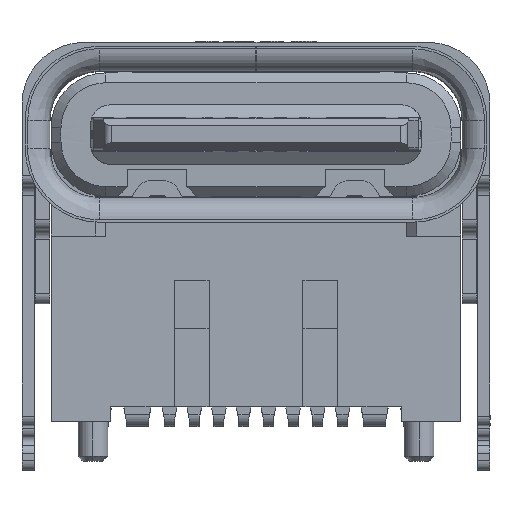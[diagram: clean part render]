
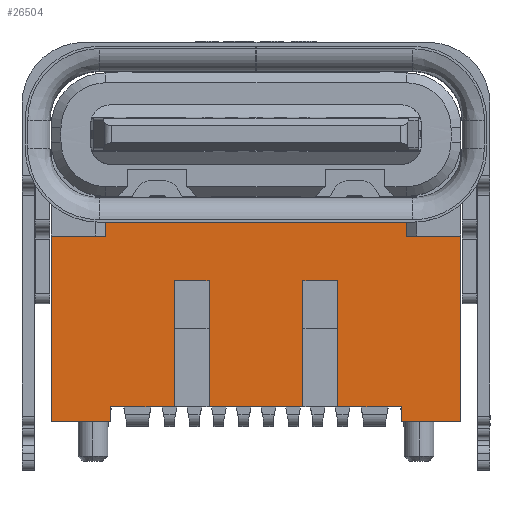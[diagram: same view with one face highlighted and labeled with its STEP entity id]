
A CAD part, top view. The second image highlights one B-rep face of the part: STEP entity #26504.
In plain terms, the highlighted planar face has unit normal (0, 0, 1).
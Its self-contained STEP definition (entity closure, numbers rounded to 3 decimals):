
#22062=CARTESIAN_POINT('',(73.676,37.615,-54.518));
#22063=VERTEX_POINT('',#22062);
#22072=CARTESIAN_POINT('',(71.776,37.615,-54.518));
#22073=VERTEX_POINT('',#22072);
#22074=CARTESIAN_POINT('',(76.871,37.615,-54.518));
#22075=DIRECTION('',(1.0,0.0,0.0));
#22076=VECTOR('',#22075,1.0);
#22077=LINE('',#22074,#22076);
#22078=EDGE_CURVE('no 33520',#22073,#22063,#22077,.T.);
#22096=CARTESIAN_POINT('',(71.076,37.615,-54.518));
#22097=VERTEX_POINT('',#22096);
#22104=CARTESIAN_POINT('',(69.781,37.615,-54.518));
#22105=VERTEX_POINT('',#22104);
#22106=CARTESIAN_POINT('',(76.871,37.615,-54.518));
#22107=DIRECTION('',(1.0,0.0,0.0));
#22108=VECTOR('',#22107,1.0);
#22109=LINE('',#22106,#22108);
#22110=EDGE_CURVE('no 34739',#22105,#22097,#22109,.T.);
#22427=CARTESIAN_POINT('',(75.671,37.615,-54.518));
#22428=VERTEX_POINT('',#22427);
#22435=CARTESIAN_POINT('',(74.376,37.615,-54.518));
#22436=VERTEX_POINT('',#22435);
#22437=CARTESIAN_POINT('',(76.871,37.615,-54.518));
#22438=DIRECTION('',(-1.0,0.0,0.0));
#22439=VECTOR('',#22438,1.0);
#22440=LINE('',#22437,#22439);
#22441=EDGE_CURVE('no 5437',#22428,#22436,#22440,.T.);
#23263=CARTESIAN_POINT('',(68.581,37.315,-54.518));
#23264=VERTEX_POINT('',#23263);
#23271=CARTESIAN_POINT('',(68.581,41.07,-54.518));
#23272=VERTEX_POINT('',#23271);
#23273=CARTESIAN_POINT('',(68.581,41.875,-54.518));
#23274=DIRECTION('',(0.0,1.0,0.0));
#23275=VECTOR('',#23274,1.0);
#23276=LINE('',#23273,#23275);
#23277=EDGE_CURVE('no 563',#23264,#23272,#23276,.T.);
#23578=CARTESIAN_POINT('',(76.871,41.07,-54.518));
#23579=VERTEX_POINT('',#23578);
#23586=CARTESIAN_POINT('',(76.871,37.315,-54.518));
#23587=VERTEX_POINT('',#23586);
#23588=CARTESIAN_POINT('',(76.871,44.365,-54.518));
#23589=DIRECTION('',(0.0,-1.0,0.0));
#23590=VECTOR('',#23589,1.0);
#23591=LINE('',#23588,#23590);
#23592=EDGE_CURVE('no 19392',#23579,#23587,#23591,.T.);
#26303=CARTESIAN_POINT('',(73.676,40.165,-54.518));
#26304=VERTEX_POINT('',#26303);
#26311=CARTESIAN_POINT('',(73.676,50.218,-54.518));
#26312=DIRECTION('',(0.0,1.0,0.0));
#26313=VECTOR('',#26312,1.0);
#26314=LINE('',#26311,#26313);
#26315=EDGE_CURVE('no 519',#22063,#26304,#26314,.T.);
#26325=CARTESIAN_POINT('',(71.826,41.83,-54.518));
#26326=VERTEX_POINT('',#26325);
#26327=CARTESIAN_POINT('',(71.826,41.87,-54.518));
#26328=VERTEX_POINT('',#26327);
#26329=CARTESIAN_POINT('',(71.826,41.83,-54.518));
#26330=DIRECTION('',(0.0,1.0,0.0));
#26331=VECTOR('',#26330,1.0);
#26332=LINE('',#26329,#26331);
#26333=EDGE_CURVE('no 21522',#26326,#26328,#26332,.T.);
#26334=ORIENTED_EDGE('no 7946',*,*,#26333,.F.);
#26335=CARTESIAN_POINT('',(71.526,41.83,-54.518));
#26336=VERTEX_POINT('',#26335);
#26337=CARTESIAN_POINT('',(76.871,41.83,-54.518));
#26338=DIRECTION('',(-1.0,0.0,0.0));
#26339=VECTOR('',#26338,1.0);
#26340=LINE('',#26337,#26339);
#26341=EDGE_CURVE('no 22651',#26326,#26336,#26340,.T.);
#26342=ORIENTED_EDGE('no 17551',*,*,#26341,.T.);
#26343=CARTESIAN_POINT('',(71.526,41.87,-54.518));
#26344=VERTEX_POINT('',#26343);
#26345=CARTESIAN_POINT('',(71.526,41.83,-54.518));
#26346=DIRECTION('',(0.0,-1.0,0.0));
#26347=VECTOR('',#26346,1.0);
#26348=LINE('',#26345,#26347);
#26349=EDGE_CURVE('no 23328',#26344,#26336,#26348,.T.);
#26350=ORIENTED_EDGE('no 30497',*,*,#26349,.F.);
#26351=CARTESIAN_POINT('',(69.676,41.87,-54.518));
#26352=VERTEX_POINT('',#26351);
#26353=CARTESIAN_POINT('',(76.871,41.87,-54.518));
#26354=DIRECTION('',(-1.0,0.0,0.0));
#26355=VECTOR('',#26354,1.0);
#26356=LINE('',#26353,#26355);
#26357=EDGE_CURVE('no 25520',#26344,#26352,#26356,.T.);
#26358=ORIENTED_EDGE('no 30549',*,*,#26357,.T.);
#26359=CARTESIAN_POINT('',(69.676,41.07,-54.518));
#26360=VERTEX_POINT('',#26359);
#26361=CARTESIAN_POINT('',(69.676,50.218,-54.518));
#26362=DIRECTION('',(0.0,-1.0,0.0));
#26363=VECTOR('',#26362,1.0);
#26364=LINE('',#26361,#26363);
#26365=EDGE_CURVE('no 23510',#26352,#26360,#26364,.T.);
#26366=ORIENTED_EDGE('no 34768',*,*,#26365,.T.);
#26367=CARTESIAN_POINT('',(76.871,41.07,-54.518));
#26368=DIRECTION('',(-1.0,0.0,0.0));
#26369=VECTOR('',#26368,1.0);
#26370=LINE('',#26367,#26369);
#26371=EDGE_CURVE('no 8893',#26360,#23272,#26370,.T.);
#26372=ORIENTED_EDGE('no 12543',*,*,#26371,.T.);
#26373=ORIENTED_EDGE('no 2434',*,*,#23277,.F.);
#26374=CARTESIAN_POINT('',(69.781,37.315,-54.518));
#26375=VERTEX_POINT('',#26374);
#26376=CARTESIAN_POINT('',(76.871,37.315,-54.518));
#26377=DIRECTION('',(1.0,0.0,0.0));
#26378=VECTOR('',#26377,1.0);
#26379=LINE('',#26376,#26378);
#26380=EDGE_CURVE('no 20008',#23264,#26375,#26379,.T.);
#26381=ORIENTED_EDGE('no 25853',*,*,#26380,.T.);
#26382=CARTESIAN_POINT('',(69.781,50.218,-54.518));
#26383=DIRECTION('',(0.0,1.0,0.0));
#26384=VECTOR('',#26383,1.0);
#26385=LINE('',#26382,#26384);
#26386=EDGE_CURVE('no 28008',#26375,#22105,#26385,.T.);
#26387=ORIENTED_EDGE('no 15852',*,*,#26386,.T.);
#26388=ORIENTED_EDGE('no 1544',*,*,#22110,.T.);
#26389=CARTESIAN_POINT('',(71.076,40.165,-54.518));
#26390=VERTEX_POINT('',#26389);
#26391=CARTESIAN_POINT('',(71.076,50.218,-54.518));
#26392=DIRECTION('',(0.0,1.0,0.0));
#26393=VECTOR('',#26392,1.0);
#26394=LINE('',#26391,#26393);
#26395=EDGE_CURVE('no 12753',#22097,#26390,#26394,.T.);
#26396=ORIENTED_EDGE('no 28849',*,*,#26395,.T.);
#26397=CARTESIAN_POINT('',(71.776,40.165,-54.518));
#26398=VERTEX_POINT('',#26397);
#26399=CARTESIAN_POINT('',(76.871,40.165,-54.518));
#26400=DIRECTION('',(1.0,0.0,0.0));
#26401=VECTOR('',#26400,1.0);
#26402=LINE('',#26399,#26401);
#26403=EDGE_CURVE('no 14507',#26390,#26398,#26402,.T.);
#26404=ORIENTED_EDGE('no 8167',*,*,#26403,.T.);
#26405=CARTESIAN_POINT('',(71.776,50.218,-54.518));
#26406=DIRECTION('',(0.0,-1.0,0.0));
#26407=VECTOR('',#26406,1.0);
#26408=LINE('',#26405,#26407);
#26409=EDGE_CURVE('no 35041',#26398,#22073,#26408,.T.);
#26410=ORIENTED_EDGE('no 15718',*,*,#26409,.T.);
#26411=ORIENTED_EDGE('no 17462',*,*,#22078,.T.);
#26412=ORIENTED_EDGE('no 7357',*,*,#26315,.T.);
#26413=CARTESIAN_POINT('',(74.376,40.165,-54.518));
#26414=VERTEX_POINT('',#26413);
#26415=CARTESIAN_POINT('',(76.871,40.165,-54.518));
#26416=DIRECTION('',(1.0,0.0,0.0));
#26417=VECTOR('',#26416,1.0);
#26418=LINE('',#26415,#26417);
#26419=EDGE_CURVE('no 20783',#26304,#26414,#26418,.T.);
#26420=ORIENTED_EDGE('no 17283',*,*,#26419,.T.);
#26421=CARTESIAN_POINT('',(74.376,50.218,-54.518));
#26422=DIRECTION('',(0.0,-1.0,0.0));
#26423=VECTOR('',#26422,1.0);
#26424=LINE('',#26421,#26423);
#26425=EDGE_CURVE('no 21993',#26414,#22436,#26424,.T.);
#26426=ORIENTED_EDGE('no 11186',*,*,#26425,.T.);
#26427=ORIENTED_EDGE('no 19348',*,*,#22441,.F.);
#26428=CARTESIAN_POINT('',(75.671,37.315,-54.518));
#26429=VERTEX_POINT('',#26428);
#26430=CARTESIAN_POINT('',(75.671,50.218,-54.518));
#26431=DIRECTION('',(0.0,-1.0,0.0));
#26432=VECTOR('',#26431,1.0);
#26433=LINE('',#26430,#26432);
#26434=EDGE_CURVE('no 18680',#22428,#26429,#26433,.T.);
#26435=ORIENTED_EDGE('no 19701',*,*,#26434,.T.);
#26436=CARTESIAN_POINT('',(72.726,37.315,-54.518));
#26437=DIRECTION('',(-1.0,0.0,0.0));
#26438=VECTOR('',#26437,1.0);
#26439=LINE('',#26436,#26438);
#26440=EDGE_CURVE('no 25130',#23587,#26429,#26439,.T.);
#26441=ORIENTED_EDGE('no 17890',*,*,#26440,.F.);
#26442=ORIENTED_EDGE('no 12934',*,*,#23592,.F.);
#26443=CARTESIAN_POINT('',(75.776,41.07,-54.518));
#26444=VERTEX_POINT('',#26443);
#26445=CARTESIAN_POINT('',(76.871,41.07,-54.518));
#26446=DIRECTION('',(-1.0,0.0,0.0));
#26447=VECTOR('',#26446,1.0);
#26448=LINE('',#26445,#26447);
#26449=EDGE_CURVE('no 34760',#23579,#26444,#26448,.T.);
#26450=ORIENTED_EDGE('no 31589',*,*,#26449,.T.);
#26451=CARTESIAN_POINT('',(75.776,41.87,-54.518));
#26452=VERTEX_POINT('',#26451);
#26453=CARTESIAN_POINT('',(75.776,50.218,-54.518));
#26454=DIRECTION('',(0.0,1.0,0.0));
#26455=VECTOR('',#26454,1.0);
#26456=LINE('',#26453,#26455);
#26457=EDGE_CURVE('no 31586',#26444,#26452,#26456,.T.);
#26458=ORIENTED_EDGE('no 6622',*,*,#26457,.T.);
#26459=CARTESIAN_POINT('',(73.926,41.87,-54.518));
#26460=VERTEX_POINT('',#26459);
#26461=CARTESIAN_POINT('',(76.871,41.87,-54.518));
#26462=DIRECTION('',(-1.0,0.0,0.0));
#26463=VECTOR('',#26462,1.0);
#26464=LINE('',#26461,#26463);
#26465=EDGE_CURVE('no 16823',#26452,#26460,#26464,.T.);
#26466=ORIENTED_EDGE('no 18289',*,*,#26465,.T.);
#26467=CARTESIAN_POINT('',(73.926,41.83,-54.518));
#26468=VERTEX_POINT('',#26467);
#26469=CARTESIAN_POINT('',(73.926,41.83,-54.518));
#26470=DIRECTION('',(0.0,1.0,0.0));
#26471=VECTOR('',#26470,1.0);
#26472=LINE('',#26469,#26471);
#26473=EDGE_CURVE('no 18576',#26468,#26460,#26472,.T.);
#26474=ORIENTED_EDGE('no 31638',*,*,#26473,.F.);
#26475=CARTESIAN_POINT('',(73.626,41.83,-54.518));
#26476=VERTEX_POINT('',#26475);
#26477=CARTESIAN_POINT('',(76.871,41.83,-54.518));
#26478=DIRECTION('',(-1.0,0.0,0.0));
#26479=VECTOR('',#26478,1.0);
#26480=LINE('',#26477,#26479);
#26481=EDGE_CURVE('no 28964',#26468,#26476,#26480,.T.);
#26482=ORIENTED_EDGE('no 3063',*,*,#26481,.T.);
#26483=CARTESIAN_POINT('',(73.626,41.87,-54.518));
#26484=VERTEX_POINT('',#26483);
#26485=CARTESIAN_POINT('',(73.626,41.83,-54.518));
#26486=DIRECTION('',(0.0,-1.0,0.0));
#26487=VECTOR('',#26486,1.0);
#26488=LINE('',#26485,#26487);
#26489=EDGE_CURVE('no 31438',#26484,#26476,#26488,.T.);
#26490=ORIENTED_EDGE('no 2264',*,*,#26489,.F.);
#26491=CARTESIAN_POINT('',(76.871,41.87,-54.518));
#26492=DIRECTION('',(-1.0,0.0,0.0));
#26493=VECTOR('',#26492,1.0);
#26494=LINE('',#26491,#26493);
#26495=EDGE_CURVE('no 20945',#26484,#26328,#26494,.T.);
#26496=ORIENTED_EDGE('no 25511',*,*,#26495,.T.);
#26497=EDGE_LOOP('',(
    #26334,#26342,#26350,#26358,#26366,#26372,#26373,#26381,#26387,#26388,
    #26396,#26404,#26410,#26411,#26412,#26420,#26426,#26427,#26435,#26441,
    #26442,#26450,#26458,#26466,#26474,#26482,#26490,#26496));
#26498=FACE_OUTER_BOUND('',#26497,.T.);
#26499=CARTESIAN_POINT('',(76.871,50.218,-54.518));
#26500=DIRECTION('',(0.0,0.0,-1.0));
#26501=DIRECTION('',(0.0,-1.0,0.0));
#26502=AXIS2_PLACEMENT_3D('',#26499,#26500,#26501);
#26503=PLANE('',#26502);
#26504=ADVANCED_FACE('no 11958',(#26498),#26503,.F.);
